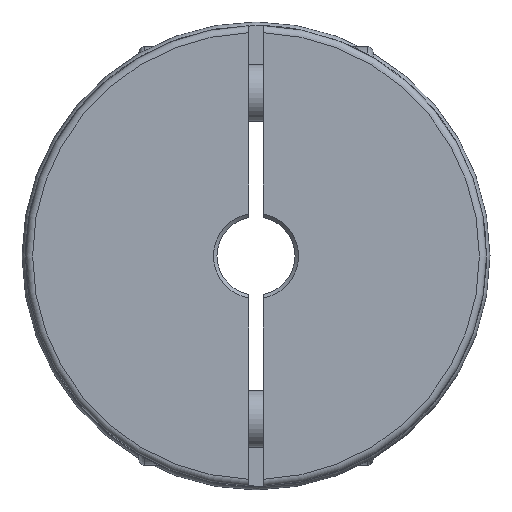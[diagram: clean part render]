
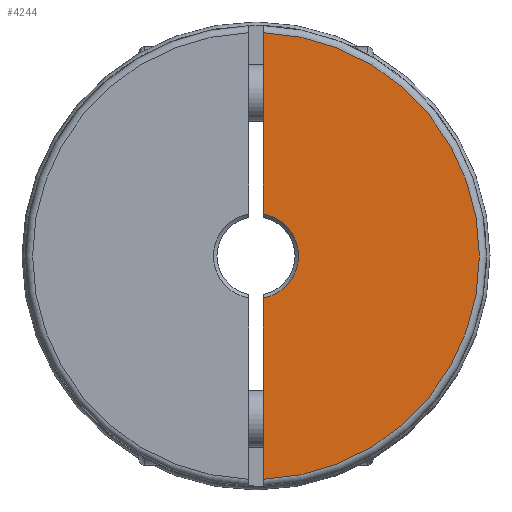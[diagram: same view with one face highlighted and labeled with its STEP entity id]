
A CAD part, left-side view. The second image highlights one B-rep face of the part: STEP entity #4244.
In plain terms, the highlighted planar face has unit normal (-1, 0, 0).
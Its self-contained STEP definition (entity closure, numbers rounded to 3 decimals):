
#90=LINE('',#6811,#226);
#99=LINE('',#6838,#235);
#226=VECTOR('',#5318,1000.);
#235=VECTOR('',#5331,1000.);
#985=ORIENTED_EDGE('',*,*,#1433,.T.);
#986=ORIENTED_EDGE('',*,*,#1372,.T.);
#987=ORIENTED_EDGE('',*,*,#1422,.F.);
#988=ORIENTED_EDGE('',*,*,#1451,.F.);
#1372=EDGE_CURVE('',#1691,#1689,#1913,.T.);
#1422=EDGE_CURVE('',#1736,#1689,#90,.T.);
#1433=EDGE_CURVE('',#1742,#1691,#99,.T.);
#1451=EDGE_CURVE('',#1742,#1736,#1953,.T.);
#1689=VERTEX_POINT('',#6433);
#1691=VERTEX_POINT('',#6436);
#1736=VERTEX_POINT('',#6812);
#1742=VERTEX_POINT('',#6839);
#1913=CIRCLE('',#4531,6.);
#1953=CIRCLE('',#4598,31.5);
#2225=EDGE_LOOP('',(#985,#986,#987,#988));
#2535=FACE_BOUND('',#2225,.T.);
#2668=PLANE('',#4609);
#4244=ADVANCED_FACE('',(#2535),#2668,.F.);
#4531=AXIS2_PLACEMENT_3D('',#6435,#5218,#5219);
#4598=AXIS2_PLACEMENT_3D('',#6882,#5372,#5373);
#4609=AXIS2_PLACEMENT_3D('',#6893,#5394,#5395);
#5218=DIRECTION('',(1.,0.,0.));
#5219=DIRECTION('',(0.,0.,-1.));
#5318=DIRECTION('',(0.,0.,1.));
#5331=DIRECTION('',(0.,0.,-1.));
#5372=DIRECTION('',(1.,0.,0.));
#5373=DIRECTION('',(0.,0.,-1.));
#5394=DIRECTION('',(1.,0.,0.));
#5395=DIRECTION('',(0.,0.,-1.));
#6433=CARTESIAN_POINT('',(-37.218,-1.,-5.916));
#6435=CARTESIAN_POINT('',(-37.218,0.,0.));
#6436=CARTESIAN_POINT('',(-37.218,-1.,5.916));
#6811=CARTESIAN_POINT('',(-37.218,-1.,32.5));
#6812=CARTESIAN_POINT('',(-37.218,-1.,-31.484));
#6838=CARTESIAN_POINT('',(-37.218,-1.,32.5));
#6839=CARTESIAN_POINT('',(-37.218,-1.,31.484));
#6882=CARTESIAN_POINT('',(-37.218,0.,0.));
#6893=CARTESIAN_POINT('',(-37.218,0.,32.5));
